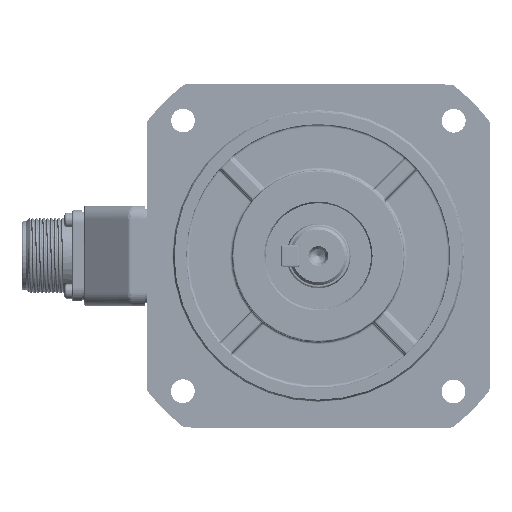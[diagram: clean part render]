
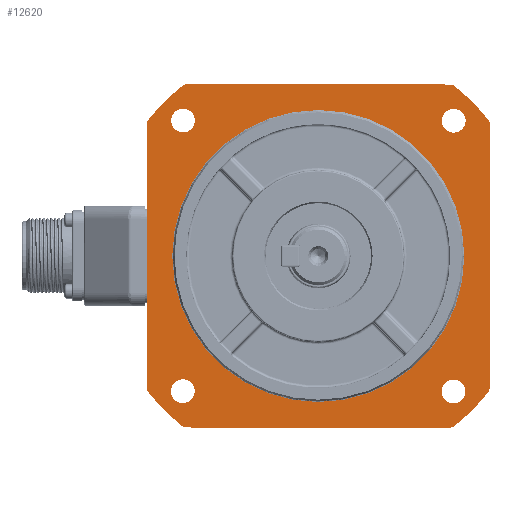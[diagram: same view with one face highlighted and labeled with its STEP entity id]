
A CAD part, left-side view. The second image highlights one B-rep face of the part: STEP entity #12620.
In plain terms, the highlighted planar face has unit normal (-1, 0, 0).
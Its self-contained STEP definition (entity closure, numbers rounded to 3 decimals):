
#21=DIRECTION('',(0.,1.,0.));
#22=VECTOR('',#21,99.524);
#23=CARTESIAN_POINT('',(7.,-49.762,-65.));
#24=LINE('',#23,#22);
#721=DIRECTION('',(0.,0.,1.));
#722=VECTOR('',#721,99.524);
#723=CARTESIAN_POINT('',(7.,65.,-49.762));
#724=LINE('',#723,#722);
#2459=CARTESIAN_POINT('',(7.,51.265,-51.265));
#2460=DIRECTION('',(-1.,0.,0.));
#2461=DIRECTION('',(0.,0.,1.));
#2462=AXIS2_PLACEMENT_3D('',#2459,#2460,#2461);
#2464=CARTESIAN_POINT('',(7.,51.265,-51.265));
#2465=DIRECTION('',(-1.,0.,0.));
#2466=DIRECTION('',(0.,0.,-1.));
#2467=AXIS2_PLACEMENT_3D('',#2464,#2465,#2466);
#2469=CARTESIAN_POINT('',(7.,51.265,51.265));
#2470=DIRECTION('',(-1.,0.,0.));
#2471=DIRECTION('',(0.,-1.,0.));
#2472=AXIS2_PLACEMENT_3D('',#2469,#2470,#2471);
#2474=CARTESIAN_POINT('',(7.,51.265,51.265));
#2475=DIRECTION('',(-1.,0.,0.));
#2476=DIRECTION('',(0.,1.,0.));
#2477=AXIS2_PLACEMENT_3D('',#2474,#2475,#2476);
#2479=CARTESIAN_POINT('',(7.,-51.265,51.265));
#2480=DIRECTION('',(-1.,0.,0.));
#2481=DIRECTION('',(0.,0.,-1.));
#2482=AXIS2_PLACEMENT_3D('',#2479,#2480,#2481);
#2484=CARTESIAN_POINT('',(7.,-51.265,51.265));
#2485=DIRECTION('',(-1.,0.,0.));
#2486=DIRECTION('',(0.,0.,1.));
#2487=AXIS2_PLACEMENT_3D('',#2484,#2485,#2486);
#2489=CARTESIAN_POINT('',(7.,-51.265,-51.265));
#2490=DIRECTION('',(-1.,0.,0.));
#2491=DIRECTION('',(0.,1.,0.));
#2492=AXIS2_PLACEMENT_3D('',#2489,#2490,#2491);
#2494=CARTESIAN_POINT('',(7.,-51.265,-51.265));
#2495=DIRECTION('',(-1.,0.,0.));
#2496=DIRECTION('',(0.,-1.,0.));
#2497=AXIS2_PLACEMENT_3D('',#2494,#2495,#2496);
#2499=CARTESIAN_POINT('',(7.,0.,0.));
#2500=DIRECTION('',(-1.,0.,0.));
#2501=DIRECTION('',(0.,1.,0.));
#2502=AXIS2_PLACEMENT_3D('',#2499,#2500,#2501);
#2504=CARTESIAN_POINT('',(7.,0.,0.));
#2505=DIRECTION('',(-1.,0.,0.));
#2506=DIRECTION('',(0.,-1.,0.));
#2507=AXIS2_PLACEMENT_3D('',#2504,#2505,#2506);
#2509=CARTESIAN_POINT('',(7.,49.762,62.));
#2510=DIRECTION('',(-1.,0.,0.));
#2511=DIRECTION('',(0.,0.,1.));
#2512=AXIS2_PLACEMENT_3D('',#2509,#2510,#2511);
#2514=CARTESIAN_POINT('',(7.,-49.762,62.));
#2515=DIRECTION('',(-1.,0.,0.));
#2516=DIRECTION('',(0.,-0.626,0.78));
#2517=AXIS2_PLACEMENT_3D('',#2514,#2515,#2516);
#2519=CARTESIAN_POINT('',(7.,0.,0.));
#2520=DIRECTION('',(-1.,0.,0.));
#2521=DIRECTION('',(0.,-0.78,0.626));
#2522=AXIS2_PLACEMENT_3D('',#2519,#2520,#2521);
#2524=CARTESIAN_POINT('',(7.,-62.,49.762));
#2525=DIRECTION('',(-1.,0.,0.));
#2526=DIRECTION('',(0.,-1.,0.));
#2527=AXIS2_PLACEMENT_3D('',#2524,#2525,#2526);
#2529=CARTESIAN_POINT('',(7.,-62.,-49.762));
#2530=DIRECTION('',(-1.,0.,0.));
#2531=DIRECTION('',(0.,-0.78,-0.626));
#2532=AXIS2_PLACEMENT_3D('',#2529,#2530,#2531);
#2534=CARTESIAN_POINT('',(7.,0.,0.));
#2535=DIRECTION('',(-1.,0.,0.));
#2536=DIRECTION('',(0.,-0.626,-0.78));
#2537=AXIS2_PLACEMENT_3D('',#2534,#2535,#2536);
#2539=CARTESIAN_POINT('',(7.,-49.762,-62.));
#2540=DIRECTION('',(-1.,0.,0.));
#2541=DIRECTION('',(0.,0.,-1.));
#2542=AXIS2_PLACEMENT_3D('',#2539,#2540,#2541);
#2544=CARTESIAN_POINT('',(7.,49.762,-62.));
#2545=DIRECTION('',(-1.,0.,0.));
#2546=DIRECTION('',(0.,0.626,-0.78));
#2547=AXIS2_PLACEMENT_3D('',#2544,#2545,#2546);
#2549=CARTESIAN_POINT('',(7.,0.,0.));
#2550=DIRECTION('',(-1.,0.,0.));
#2551=DIRECTION('',(0.,0.78,-0.626));
#2552=AXIS2_PLACEMENT_3D('',#2549,#2550,#2551);
#2554=CARTESIAN_POINT('',(7.,62.,-49.762));
#2555=DIRECTION('',(-1.,0.,0.));
#2556=DIRECTION('',(0.,1.,0.));
#2557=AXIS2_PLACEMENT_3D('',#2554,#2555,#2556);
#2559=CARTESIAN_POINT('',(7.,62.,49.762));
#2560=DIRECTION('',(-1.,0.,0.));
#2561=DIRECTION('',(0.,0.78,0.626));
#2562=AXIS2_PLACEMENT_3D('',#2559,#2560,#2561);
#2564=CARTESIAN_POINT('',(7.,0.,0.));
#2565=DIRECTION('',(-1.,0.,0.));
#2566=DIRECTION('',(0.,0.626,0.78));
#2567=AXIS2_PLACEMENT_3D('',#2564,#2565,#2566);
#2859=DIRECTION('',(0.,0.,-1.));
#2860=VECTOR('',#2859,99.524);
#2861=CARTESIAN_POINT('',(7.,-65.,49.762));
#2862=LINE('',#2861,#2860);
#3842=DIRECTION('',(0.,-1.,0.));
#3843=VECTOR('',#3842,99.524);
#3844=CARTESIAN_POINT('',(7.,49.762,65.));
#3845=LINE('',#3844,#3843);
#7235=CARTESIAN_POINT('',(7.,51.265,-46.765));
#7236=CARTESIAN_POINT('',(7.,51.265,-55.765));
#7237=VERTEX_POINT('',#7235);
#7238=VERTEX_POINT('',#7236);
#7243=CARTESIAN_POINT('',(7.,46.765,51.265));
#7244=CARTESIAN_POINT('',(7.,55.765,51.265));
#7245=VERTEX_POINT('',#7243);
#7246=VERTEX_POINT('',#7244);
#7251=CARTESIAN_POINT('',(7.,-51.265,46.765));
#7252=CARTESIAN_POINT('',(7.,-51.265,55.765));
#7253=VERTEX_POINT('',#7251);
#7254=VERTEX_POINT('',#7252);
#7259=CARTESIAN_POINT('',(7.,-46.765,-51.265));
#7260=CARTESIAN_POINT('',(7.,-55.765,-51.265));
#7261=VERTEX_POINT('',#7259);
#7262=VERTEX_POINT('',#7260);
#7381=CARTESIAN_POINT('',(7.,55.3,0.));
#7382=CARTESIAN_POINT('',(7.,-55.3,0.));
#7383=VERTEX_POINT('',#7381);
#7384=VERTEX_POINT('',#7382);
#7595=CARTESIAN_POINT('',(7.,49.762,65.));
#7596=CARTESIAN_POINT('',(7.,51.64,64.34));
#7597=VERTEX_POINT('',#7595);
#7598=VERTEX_POINT('',#7596);
#7599=CARTESIAN_POINT('',(7.,64.34,51.64));
#7600=CARTESIAN_POINT('',(7.,65.,49.762));
#7601=VERTEX_POINT('',#7599);
#7602=VERTEX_POINT('',#7600);
#7603=CARTESIAN_POINT('',(7.,-51.64,64.34));
#7604=CARTESIAN_POINT('',(7.,-49.762,65.));
#7605=VERTEX_POINT('',#7603);
#7606=VERTEX_POINT('',#7604);
#7607=CARTESIAN_POINT('',(7.,-65.,49.762));
#7608=CARTESIAN_POINT('',(7.,-64.34,51.64));
#7609=VERTEX_POINT('',#7607);
#7610=VERTEX_POINT('',#7608);
#7611=CARTESIAN_POINT('',(7.,-64.34,-51.64));
#7612=CARTESIAN_POINT('',(7.,-65.,-49.762));
#7613=VERTEX_POINT('',#7611);
#7614=VERTEX_POINT('',#7612);
#7615=CARTESIAN_POINT('',(7.,-49.762,-65.));
#7616=CARTESIAN_POINT('',(7.,-51.64,-64.34));
#7617=VERTEX_POINT('',#7615);
#7618=VERTEX_POINT('',#7616);
#7619=CARTESIAN_POINT('',(7.,51.64,-64.34));
#7620=CARTESIAN_POINT('',(7.,49.762,-65.));
#7621=VERTEX_POINT('',#7619);
#7622=VERTEX_POINT('',#7620);
#7623=CARTESIAN_POINT('',(7.,65.,-49.762));
#7624=CARTESIAN_POINT('',(7.,64.34,-51.64));
#7625=VERTEX_POINT('',#7623);
#7626=VERTEX_POINT('',#7624);
#12554=CARTESIAN_POINT('',(7.,0.,0.));
#12555=DIRECTION('',(-1.,0.,0.));
#12556=DIRECTION('',(0.,1.,0.));
#12557=AXIS2_PLACEMENT_3D('',#12554,#12555,#12556);
#12558=PLANE('',#12557);
#12560=ORIENTED_EDGE('',*,*,#12559,.F.);
#12562=ORIENTED_EDGE('',*,*,#12561,.T.);
#12564=ORIENTED_EDGE('',*,*,#12563,.F.);
#12566=ORIENTED_EDGE('',*,*,#12565,.F.);
#12568=ORIENTED_EDGE('',*,*,#12567,.F.);
#12570=ORIENTED_EDGE('',*,*,#12569,.T.);
#12572=ORIENTED_EDGE('',*,*,#12571,.F.);
#12574=ORIENTED_EDGE('',*,*,#12573,.F.);
#12576=ORIENTED_EDGE('',*,*,#12575,.F.);
#12577=ORIENTED_EDGE('',*,*,#8886,.T.);
#12579=ORIENTED_EDGE('',*,*,#12578,.F.);
#12581=ORIENTED_EDGE('',*,*,#12580,.F.);
#12583=ORIENTED_EDGE('',*,*,#12582,.F.);
#12584=ORIENTED_EDGE('',*,*,#9762,.T.);
#12586=ORIENTED_EDGE('',*,*,#12585,.F.);
#12588=ORIENTED_EDGE('',*,*,#12587,.F.);
#12589=EDGE_LOOP('',(#12560,#12562,#12564,#12566,#12568,#12570,#12572,#12574,
#12576,#12577,#12579,#12581,#12583,#12584,#12586,#12588));
#12590=FACE_OUTER_BOUND('',#12589,.F.);
#12592=ORIENTED_EDGE('',*,*,#12591,.T.);
#12594=ORIENTED_EDGE('',*,*,#12593,.T.);
#12595=EDGE_LOOP('',(#12592,#12594));
#12596=FACE_BOUND('',#12595,.F.);
#12598=ORIENTED_EDGE('',*,*,#12597,.T.);
#12600=ORIENTED_EDGE('',*,*,#12599,.T.);
#12601=EDGE_LOOP('',(#12598,#12600));
#12602=FACE_BOUND('',#12601,.F.);
#12604=ORIENTED_EDGE('',*,*,#12603,.T.);
#12606=ORIENTED_EDGE('',*,*,#12605,.T.);
#12607=EDGE_LOOP('',(#12604,#12606));
#12608=FACE_BOUND('',#12607,.F.);
#12609=ORIENTED_EDGE('',*,*,#12544,.T.);
#12611=ORIENTED_EDGE('',*,*,#12610,.T.);
#12612=EDGE_LOOP('',(#12609,#12611));
#12613=FACE_BOUND('',#12612,.F.);
#12615=ORIENTED_EDGE('',*,*,#12614,.T.);
#12617=ORIENTED_EDGE('',*,*,#12616,.T.);
#12618=EDGE_LOOP('',(#12615,#12617));
#12619=FACE_BOUND('',#12618,.F.);
#12620=ADVANCED_FACE('',(#12590,#12596,#12602,#12608,#12613,#12619),#12558,.T.);
#2463=CIRCLE('',#2462,4.5);
#2468=CIRCLE('',#2467,4.5);
#2473=CIRCLE('',#2472,4.5);
#2478=CIRCLE('',#2477,4.5);
#2483=CIRCLE('',#2482,4.5);
#2488=CIRCLE('',#2487,4.5);
#2493=CIRCLE('',#2492,4.5);
#2498=CIRCLE('',#2497,4.5);
#2503=CIRCLE('',#2502,55.3);
#2508=CIRCLE('',#2507,55.3);
#2513=CIRCLE('',#2512,3.);
#2518=CIRCLE('',#2517,3.);
#2523=CIRCLE('',#2522,82.5);
#2528=CIRCLE('',#2527,3.);
#2533=CIRCLE('',#2532,3.);
#2538=CIRCLE('',#2537,82.5);
#2543=CIRCLE('',#2542,3.);
#2548=CIRCLE('',#2547,3.);
#2553=CIRCLE('',#2552,82.5);
#2558=CIRCLE('',#2557,3.);
#2563=CIRCLE('',#2562,3.);
#2568=CIRCLE('',#2567,82.5);
#8886=EDGE_CURVE('',#7617,#7622,#24,.T.);
#9762=EDGE_CURVE('',#7625,#7602,#724,.T.);
#12544=EDGE_CURVE('',#7383,#7384,#2503,.T.);
#12559=EDGE_CURVE('',#7597,#7598,#2513,.T.);
#12561=EDGE_CURVE('',#7597,#7606,#3845,.T.);
#12563=EDGE_CURVE('',#7605,#7606,#2518,.T.);
#12565=EDGE_CURVE('',#7610,#7605,#2523,.T.);
#12567=EDGE_CURVE('',#7609,#7610,#2528,.T.);
#12569=EDGE_CURVE('',#7609,#7614,#2862,.T.);
#12571=EDGE_CURVE('',#7613,#7614,#2533,.T.);
#12573=EDGE_CURVE('',#7618,#7613,#2538,.T.);
#12575=EDGE_CURVE('',#7617,#7618,#2543,.T.);
#12578=EDGE_CURVE('',#7621,#7622,#2548,.T.);
#12580=EDGE_CURVE('',#7626,#7621,#2553,.T.);
#12582=EDGE_CURVE('',#7625,#7626,#2558,.T.);
#12585=EDGE_CURVE('',#7601,#7602,#2563,.T.);
#12587=EDGE_CURVE('',#7598,#7601,#2568,.T.);
#12591=EDGE_CURVE('',#7245,#7246,#2473,.T.);
#12593=EDGE_CURVE('',#7246,#7245,#2478,.T.);
#12597=EDGE_CURVE('',#7253,#7254,#2483,.T.);
#12599=EDGE_CURVE('',#7254,#7253,#2488,.T.);
#12603=EDGE_CURVE('',#7261,#7262,#2493,.T.);
#12605=EDGE_CURVE('',#7262,#7261,#2498,.T.);
#12610=EDGE_CURVE('',#7384,#7383,#2508,.T.);
#12614=EDGE_CURVE('',#7237,#7238,#2463,.T.);
#12616=EDGE_CURVE('',#7238,#7237,#2468,.T.);
